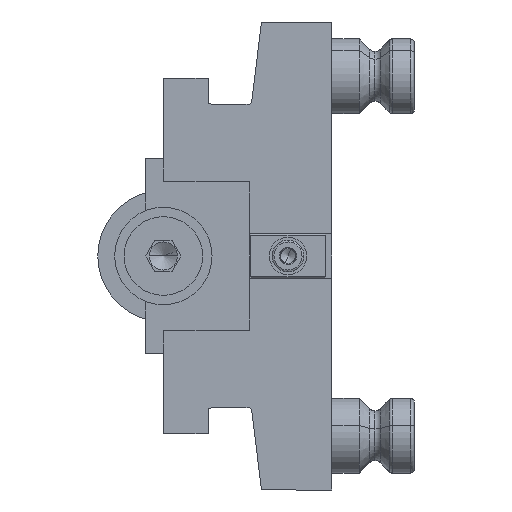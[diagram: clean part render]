
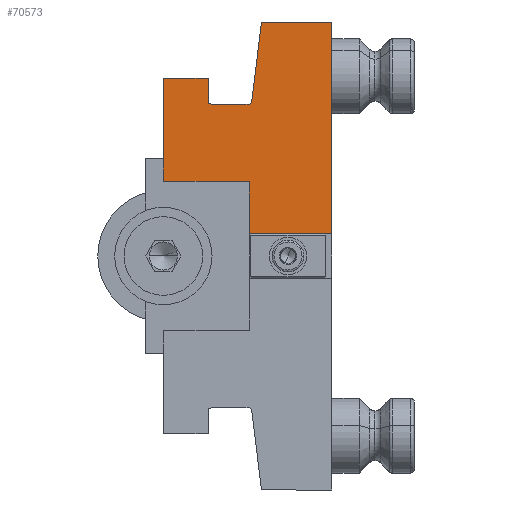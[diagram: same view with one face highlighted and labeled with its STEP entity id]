
A CAD part, left-side view. The second image highlights one B-rep face of the part: STEP entity #70573.
In plain terms, the highlighted planar face has unit normal (-1, 0, 0).
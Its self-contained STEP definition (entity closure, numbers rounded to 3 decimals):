
#142 = VERTEX_POINT ( 'NONE', #60106 ) ;
#703 = LINE ( 'NONE', #93286, #85169 ) ;
#838 = CARTESIAN_POINT ( 'NONE',  ( -402., 33., 19.8 ) ) ;
#921 = EDGE_CURVE ( 'NONE', #71970, #39423, #57733, .T. ) ;
#2091 = VECTOR ( 'NONE', #56453, 1000. ) ;
#3107 = EDGE_CURVE ( 'NONE', #59251, #71454, #28935, .T. ) ;
#3209 = ORIENTED_EDGE ( 'NONE', *, *, #75861, .T. ) ;
#3618 = EDGE_CURVE ( 'NONE', #39423, #142, #59567, .T. ) ;
#3867 = DIRECTION ( 'NONE',  ( 0., 1., 0. ) ) ;
#4052 = VERTEX_POINT ( 'NONE', #58023 ) ;
#4180 = CARTESIAN_POINT ( 'NONE',  ( -402., 33., 47.5 ) ) ;
#5009 = AXIS2_PLACEMENT_3D ( 'NONE', #75917, #54549, #82060 ) ;
#5954 = FACE_OUTER_BOUND ( 'NONE', #83333, .T. ) ;
#6598 = ORIENTED_EDGE ( 'NONE', *, *, #921, .F. ) ;
#6929 = CARTESIAN_POINT ( 'NONE',  ( -402., 22., 6. ) ) ;
#7283 = CARTESIAN_POINT ( 'NONE',  ( -402., 45., 20. ) ) ;
#7827 = CARTESIAN_POINT ( 'NONE',  ( -402., 45., 62.8 ) ) ;
#8200 = CARTESIAN_POINT ( 'NONE',  ( -402., 33., 40.7 ) ) ;
#9110 = VERTEX_POINT ( 'NONE', #14377 ) ;
#11773 = VECTOR ( 'NONE', #38036, 1000. ) ;
#14377 = CARTESIAN_POINT ( 'NONE',  ( -402., 22.385, 40.5 ) ) ;
#15665 = CARTESIAN_POINT ( 'NONE',  ( -402., 45., 20. ) ) ;
#15938 = LINE ( 'NONE', #7827, #28156 ) ;
#16864 = DIRECTION ( 'NONE',  ( 0., -1., 0. ) ) ;
#18963 = VECTOR ( 'NONE', #22510, 1000. ) ;
#19801 = VECTOR ( 'NONE', #76459, 1000. ) ;
#22510 = DIRECTION ( 'NONE',  ( 0., -1., 0. ) ) ;
#24290 = CARTESIAN_POINT ( 'NONE',  ( -402., 45.2, 19.8 ) ) ;
#25296 = ORIENTED_EDGE ( 'NONE', *, *, #64637, .T. ) ;
#25913 = LINE ( 'NONE', #33005, #61064 ) ;
#26128 = DIRECTION ( 'NONE',  ( 0., 0., -1. ) ) ;
#26423 = ORIENTED_EDGE ( 'NONE', *, *, #49437, .T. ) ;
#26762 = LINE ( 'NONE', #84553, #40836 ) ;
#26791 = ORIENTED_EDGE ( 'NONE', *, *, #3107, .F. ) ;
#28156 = VECTOR ( 'NONE', #81447, 1000. ) ;
#28882 = ORIENTED_EDGE ( 'NONE', *, *, #34167, .T. ) ;
#28935 = LINE ( 'NONE', #85346, #2091 ) ;
#29023 = LINE ( 'NONE', #15665, #37159 ) ;
#29240 = LINE ( 'NONE', #29722, #88454 ) ;
#29722 = CARTESIAN_POINT ( 'NONE',  ( -402., 45., 62.5 ) ) ;
#30327 = VECTOR ( 'NONE', #66535, 1000. ) ;
#31401 = ORIENTED_EDGE ( 'NONE', *, *, #53362, .T. ) ;
#31673 = VERTEX_POINT ( 'NONE', #838 ) ;
#32435 = CIRCLE ( 'NONE', #5009, 1. ) ;
#33005 = CARTESIAN_POINT ( 'NONE',  ( -402., 22., 19.8 ) ) ;
#33744 = VERTEX_POINT ( 'NONE', #6929 ) ;
#34167 = EDGE_CURVE ( 'NONE', #34625, #142, #32435, .T. ) ;
#34625 = VERTEX_POINT ( 'NONE', #69655 ) ;
#35059 = EDGE_CURVE ( 'NONE', #9110, #34625, #44772, .T. ) ;
#35732 = VECTOR ( 'NONE', #89302, 1000. ) ;
#36147 = DIRECTION ( 'NONE',  ( 0., 1., 0. ) ) ;
#36448 = ORIENTED_EDGE ( 'NONE', *, *, #68431, .F. ) ;
#36996 = CARTESIAN_POINT ( 'NONE',  ( -402., 33., 20. ) ) ;
#37159 = VECTOR ( 'NONE', #36147, 1000. ) ;
#37503 = EDGE_CURVE ( 'NONE', #40500, #59251, #29240, .T. ) ;
#37769 = ORIENTED_EDGE ( 'NONE', *, *, #3618, .F. ) ;
#38036 = DIRECTION ( 'NONE',  ( 0., 1., 0. ) ) ;
#38205 = CARTESIAN_POINT ( 'NONE',  ( -402., 45., 47.5 ) ) ;
#38809 = EDGE_CURVE ( 'NONE', #77881, #54926, #29023, .T. ) ;
#39423 = VERTEX_POINT ( 'NONE', #71779 ) ;
#40500 = VERTEX_POINT ( 'NONE', #43169 ) ;
#40836 = VECTOR ( 'NONE', #3867, 1000. ) ;
#43169 = CARTESIAN_POINT ( 'NONE',  ( -402., 18.799, 62.5 ) ) ;
#43287 = ORIENTED_EDGE ( 'NONE', *, *, #35059, .T. ) ;
#44716 = CIRCLE ( 'NONE', #79066, 1. ) ;
#44717 = VERTEX_POINT ( 'NONE', #38205 ) ;
#44772 = LINE ( 'NONE', #45720, #35732 ) ;
#44818 = CARTESIAN_POINT ( 'NONE',  ( -402., 21.392, 41.378 ) ) ;
#45612 = LINE ( 'NONE', #75041, #11773 ) ;
#45720 = CARTESIAN_POINT ( 'NONE',  ( -402., 21.5, 40.5 ) ) ;
#48451 = ORIENTED_EDGE ( 'NONE', *, *, #81612, .F. ) ;
#49217 = CARTESIAN_POINT ( 'NONE',  ( -402., 45., 62.8 ) ) ;
#49437 = EDGE_CURVE ( 'NONE', #40500, #70206, #60876, .T. ) ;
#49817 = CARTESIAN_POINT ( 'NONE',  ( -402., 0., 6. ) ) ;
#49918 = CARTESIAN_POINT ( 'NONE',  ( -402., 0., 62.5 ) ) ;
#52514 = ORIENTED_EDGE ( 'NONE', *, *, #38809, .F. ) ;
#53203 = PLANE ( 'NONE',  #88678 ) ;
#53362 = EDGE_CURVE ( 'NONE', #44717, #54926, #15938, .T. ) ;
#54121 = CARTESIAN_POINT ( 'NONE',  ( -402., 22.385, 41.5 ) ) ;
#54549 = DIRECTION ( 'NONE',  ( 1., 0., 0. ) ) ;
#54926 = VERTEX_POINT ( 'NONE', #7283 ) ;
#56453 = DIRECTION ( 'NONE',  ( 0., 0., -1. ) ) ;
#57733 = LINE ( 'NONE', #4180, #69717 ) ;
#58023 = CARTESIAN_POINT ( 'NONE',  ( -402., 22., 19.8 ) ) ;
#58603 = ORIENTED_EDGE ( 'NONE', *, *, #68043, .T. ) ;
#59251 = VERTEX_POINT ( 'NONE', #49918 ) ;
#59567 = LINE ( 'NONE', #8200, #18963 ) ;
#60106 = CARTESIAN_POINT ( 'NONE',  ( -402., 32.4, 40.7 ) ) ;
#60327 = DIRECTION ( 'NONE',  ( 1., 0., 0. ) ) ;
#60876 = LINE ( 'NONE', #89737, #19801 ) ;
#61064 = VECTOR ( 'NONE', #70039, 1000. ) ;
#62194 = DIRECTION ( 'NONE',  ( 0., 0., 1. ) ) ;
#64637 = EDGE_CURVE ( 'NONE', #71970, #44717, #26762, .T. ) ;
#66535 = DIRECTION ( 'NONE',  ( 0., -1., 0. ) ) ;
#66974 = ORIENTED_EDGE ( 'NONE', *, *, #83344, .T. ) ;
#68043 = EDGE_CURVE ( 'NONE', #70206, #9110, #44716, .T. ) ;
#68431 = EDGE_CURVE ( 'NONE', #31673, #77881, #703, .T. ) ;
#69655 = CARTESIAN_POINT ( 'NONE',  ( -402., 31.8, 40.5 ) ) ;
#69717 = VECTOR ( 'NONE', #26128, 1000. ) ;
#70039 = DIRECTION ( 'NONE',  ( 0., 0., -1. ) ) ;
#70206 = VERTEX_POINT ( 'NONE', #44818 ) ;
#70573 = ADVANCED_FACE ( 'NONE', ( #5954 ), #53203, .T. ) ;
#71454 = VERTEX_POINT ( 'NONE', #49817 ) ;
#71779 = CARTESIAN_POINT ( 'NONE',  ( -402., 33., 40.7 ) ) ;
#71970 = VERTEX_POINT ( 'NONE', #83998 ) ;
#73858 = DIRECTION ( 'NONE',  ( 0., 0., 1. ) ) ;
#75041 = CARTESIAN_POINT ( 'NONE',  ( -402., 22., 6. ) ) ;
#75861 = EDGE_CURVE ( 'NONE', #4052, #33744, #25913, .T. ) ;
#75917 = CARTESIAN_POINT ( 'NONE',  ( -402., 31.8, 41.5 ) ) ;
#76459 = DIRECTION ( 'NONE',  ( 0., 0.122, -0.993 ) ) ;
#76923 = ORIENTED_EDGE ( 'NONE', *, *, #37503, .F. ) ;
#77881 = VERTEX_POINT ( 'NONE', #36996 ) ;
#79066 = AXIS2_PLACEMENT_3D ( 'NONE', #54121, #60327, #62194 ) ;
#81447 = DIRECTION ( 'NONE',  ( 0., 0., -1. ) ) ;
#81612 = EDGE_CURVE ( 'NONE', #71454, #33744, #45612, .T. ) ;
#81673 = LINE ( 'NONE', #24290, #30327 ) ;
#82060 = DIRECTION ( 'NONE',  ( 0., 0., 1. ) ) ;
#82128 = DIRECTION ( 'NONE',  ( -1., 0., 0. ) ) ;
#83333 = EDGE_LOOP ( 'NONE', ( #3209, #48451, #26791, #76923, #26423, #58603, #43287, #28882, #37769, #6598, #25296, #31401, #52514, #36448, #66974 ) ) ;
#83344 = EDGE_CURVE ( 'NONE', #31673, #4052, #81673, .T. ) ;
#83998 = CARTESIAN_POINT ( 'NONE',  ( -402., 33., 47.5 ) ) ;
#84553 = CARTESIAN_POINT ( 'NONE',  ( -402., 45.2, 47.5 ) ) ;
#85169 = VECTOR ( 'NONE', #73858, 1000. ) ;
#85346 = CARTESIAN_POINT ( 'NONE',  ( -402., 0., 62.8 ) ) ;
#88454 = VECTOR ( 'NONE', #16864, 1000. ) ;
#88678 = AXIS2_PLACEMENT_3D ( 'NONE', #49217, #82128, #90645 ) ;
#89302 = DIRECTION ( 'NONE',  ( 0., 1., 0. ) ) ;
#89737 = CARTESIAN_POINT ( 'NONE',  ( -402., 18.762, 62.8 ) ) ;
#90645 = DIRECTION ( 'NONE',  ( 0., 0., 1. ) ) ;
#93286 = CARTESIAN_POINT ( 'NONE',  ( -402., 33., 19.699 ) ) ;
